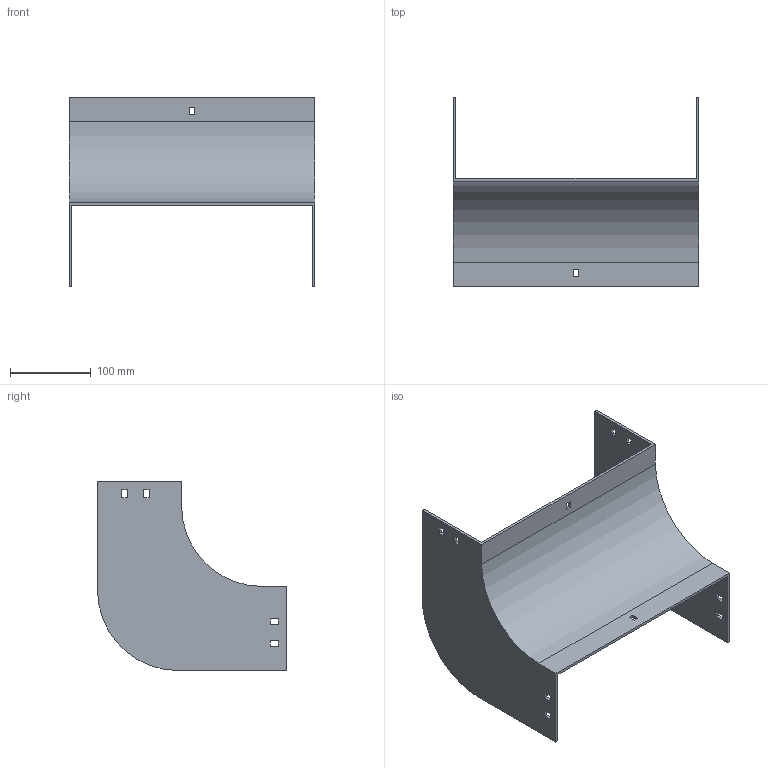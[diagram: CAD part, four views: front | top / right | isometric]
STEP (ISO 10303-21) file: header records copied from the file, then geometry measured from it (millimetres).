
FILE_DESCRIPTION (( 'STEP AP214' ), '1' );
FILE_NAME ('33F1D300.step', '2025-02-21T12:51:54', ( '' ), ( '' ), 'SwSTEP 2.0', 'SolidWorks 2023', '' );
FILE_SCHEMA (( 'AUTOMOTIVE_DESIGN' ));
Length unit declared in the file: millimetre
Products named in the file (1): 33F1D300
Bounding box: 304 x 234 x 234 mm (x, y, z)
Volume: 491134.3 mm3; surface area: 288308.5 mm2
Topology: 1 solids, 1 shells, 58 faces, 168 edges, 112 vertices
Faces by surface type: plane 54, cylinder 4
Entity records: 1943 total; most frequent: CARTESIAN_POINT 339, ORIENTED_EDGE 336, DIRECTION 294, EDGE_CURVE 168, VECTOR 160, LINE 160, VERTEX_POINT 112, EDGE_LOOP 78
